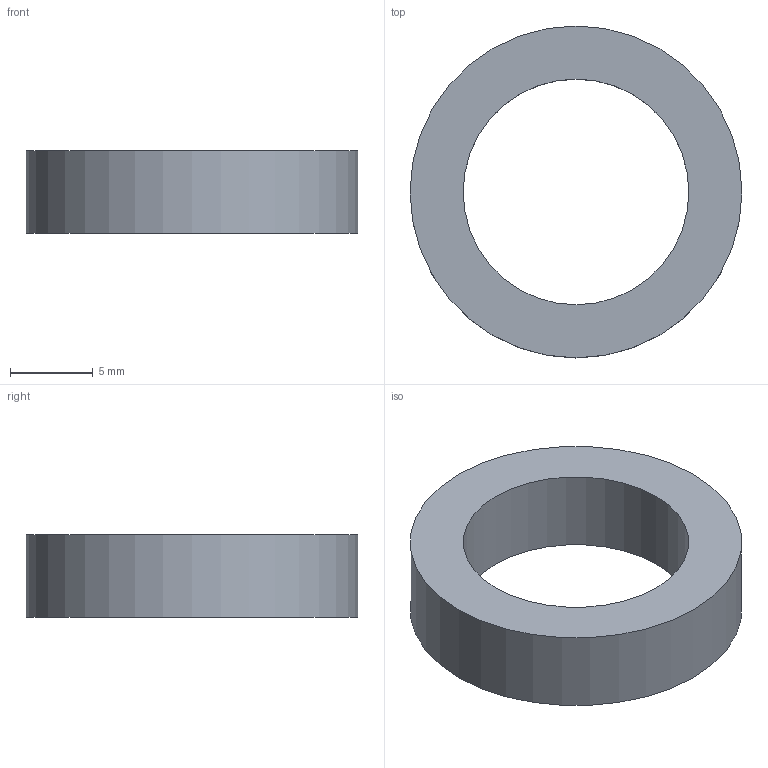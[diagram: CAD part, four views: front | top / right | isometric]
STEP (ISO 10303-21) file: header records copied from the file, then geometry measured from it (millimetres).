
FILE_DESCRIPTION(('FreeCAD Model'),'2;1');
FILE_NAME('Open CASCADE Shape Model','2026-11-20T08:25:39',('FreeCAD'),( 'FreeCAD'),'Open CASCADE STEP processor 7.8','FreeCAD','Unknown');
FILE_SCHEMA(('AUTOMOTIVE_DESIGN { 1 0 10303 214 1 1 1 1 }'));
Length unit declared in the file: millimetre
Products named in the file (1): Open CASCADE STEP translator 7.8 101
Bounding box: 20 x 20 x 5 mm (x, y, z)
Volume: 844.5 mm3; surface area: 865.6 mm2
Topology: 1 solids, 1 shells, 4 faces, 6 edges, 4 vertices
Faces by surface type: cylinder 2, plane 2
Full cylindrical faces by diameter (mm): 13.6 x1, 20 x1
Entity records: 108 total; most frequent: DIRECTION 20, CARTESIAN_POINT 15, ORIENTED_EDGE 12, AXIS2_PLACEMENT_3D 9, FACE_BOUND 6, EDGE_LOOP 6, EDGE_CURVE 6, ADVANCED_FACE 4
